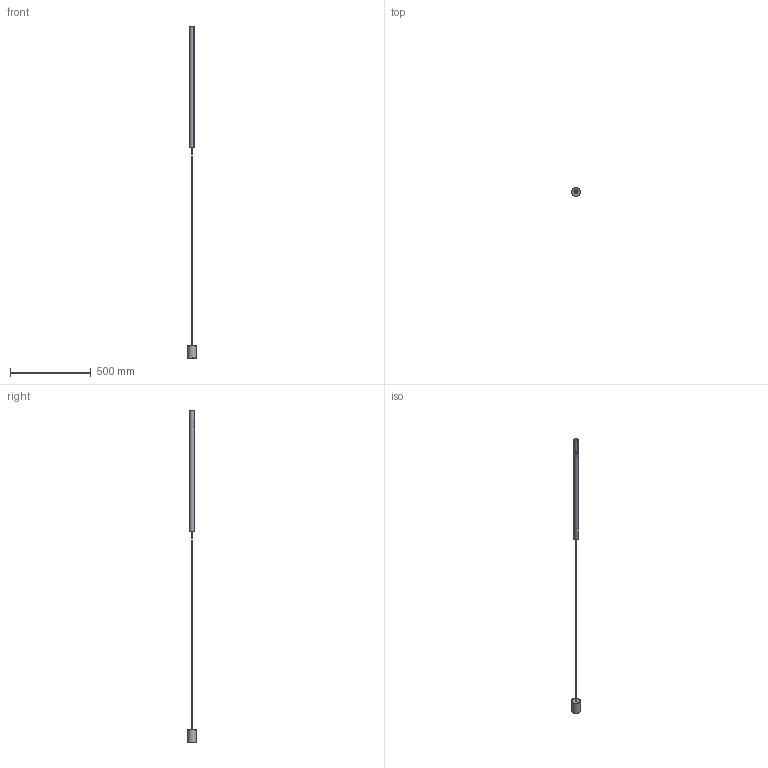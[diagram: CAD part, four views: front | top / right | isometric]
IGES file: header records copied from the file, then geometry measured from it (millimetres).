
Start section: SolidWorks IGES file using analytic representation for surfaces
Global section: file name: Z:\Modele 3D_WWW\_KOLEKCJE_WWW\LASER\LASER-750-8433-8431-8432\LASER-750-8433-8431-8432.IGS; native system: SolidWorks 2020; preprocessor: SolidWorks 2020; author: gabriela.tworek; date: 210514.094347; units: millimetre
Bounding box: 54.99 x 54.99 x 2049.52 mm (x, y, z)
Surface area: 176842.8 mm2 (no closed solid volume)
Topology: 0 solids, 0 shells, 151 faces, 2314 edges, 2310 vertices
Faces by surface type: bspline 76, revolution 75
